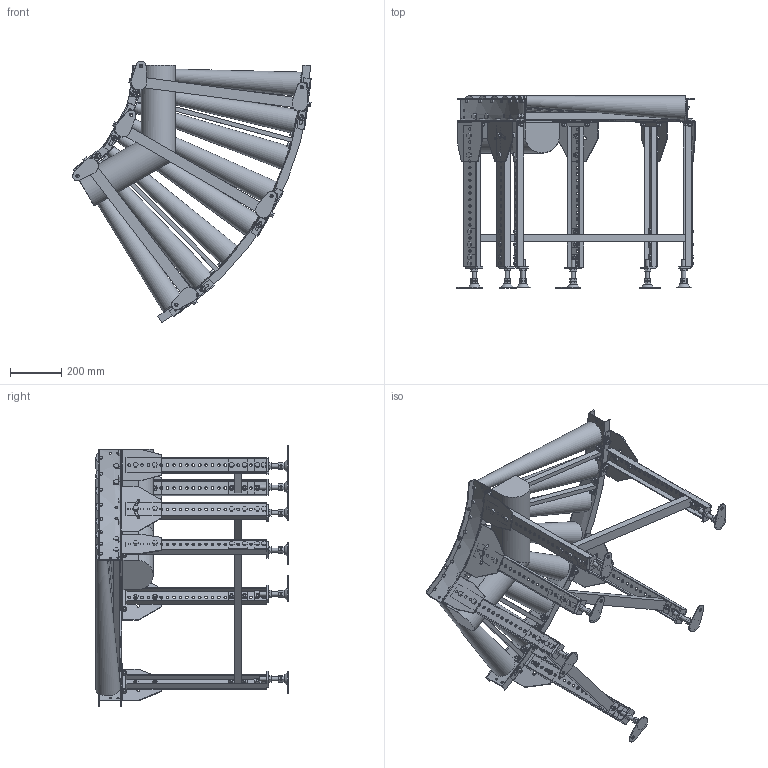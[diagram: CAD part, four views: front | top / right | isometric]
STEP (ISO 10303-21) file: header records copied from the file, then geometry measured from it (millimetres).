
FILE_DESCRIPTION( (''), '2;1');
FILE_NAME ('WEB-MCD-50-630-75-60°-C5.stp','2025-06-26T17:01:24',(''),(''),'spGate 20.6.2 (****-****-****-****)','','');
FILE_SCHEMA (('AUTOMOTIVE_DESIGN'));
Length unit declared in the file: millimetre
Products named in the file (45): WEB-MCD-50-630-75-60_-C5; TEMP_X_T-prt0; TEMP_X_T-prt1; TEMP_X_T-prt2; TEMP_X_T-prt3; TEMP_X_T-prt4; TEMP_X_T-prt5; TEMP_X_T-prt6; TEMP_X_T-prt7; TEMP_X_T-prt8; TEMP_X_T-prt9; TEMP_X_T-prt10; TEMP_X_T-prt11; TEMP_X_T-prt12; TEMP_X_T-prt13; TEMP_X_T-prt14; TEMP_X_T-prt15; TEMP_X_T-prt16; TEMP_X_T-prt17; TEMP_X_T-prt18; TEMP_X_T-prt19; TEMP_X_T-prt20; TEMP_X_T-prt21; TEMP_X_T-prt22; TEMP_X_T-prt23; TEMP_X_T-prt24; TEMP_X_T-prt25; TEMP_X_T-prt26; TEMP_X_T-prt27; TEMP_X_T-prt28; TEMP_X_T-prt29; TEMP_X_T-prt30; TEMP_X_T-prt31; TEMP_X_T-prt32; TEMP_X_T-prt33; TEMP_X_T-prt34; TEMP_X_T-prt35; TEMP_X_T-prt36; TEMP_X_T-prt37; TEMP_X_T-prt38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
Assembly tree (44 placements, depth 2):
  WEB-MCD-50-630-75-60_-C5
    TEMP_X_T-prt0
    TEMP_X_T-prt1
    TEMP_X_T-prt2
    TEMP_X_T-prt3
    TEMP_X_T-prt4
    TEMP_X_T-prt5
    TEMP_X_T-prt6
    TEMP_X_T-prt7
    TEMP_X_T-prt8
    TEMP_X_T-prt9
    TEMP_X_T-prt10
    TEMP_X_T-prt11
    TEMP_X_T-prt12
    TEMP_X_T-prt13
    TEMP_X_T-prt14
    TEMP_X_T-prt15
    TEMP_X_T-prt16
    TEMP_X_T-prt17
    TEMP_X_T-prt18
    TEMP_X_T-prt19
    TEMP_X_T-prt20
    TEMP_X_T-prt21
    TEMP_X_T-prt22
    TEMP_X_T-prt23
    TEMP_X_T-prt24
    TEMP_X_T-prt25
    TEMP_X_T-prt26
    TEMP_X_T-prt27
    TEMP_X_T-prt28
    TEMP_X_T-prt29
    TEMP_X_T-prt30
    TEMP_X_T-prt31
    TEMP_X_T-prt32
    TEMP_X_T-prt33
    TEMP_X_T-prt34
    TEMP_X_T-prt35
    TEMP_X_T-prt36
    TEMP_X_T-prt37
    TEMP_X_T-prt38
    TEMP_X_T-prt39
    TEMP_X_T-prt40
    TEMP_X_T-prt41
    TEMP_X_T-prt42
    TEMP_X_T-prt43
Bounding box: 930.58 x 749.97 x 1021.35 mm (x, y, z)
Volume: 35016093.1 mm3; surface area: 3694645.5 mm2
Topology: 44 solids, 76 shells, 2754 faces, 6717 edges, 4320 vertices
Faces by surface type: plane 2324, cylinder 416, bspline 14
Full cylindrical faces by diameter (mm): 8.5 x8, 10 x72, 10.5 x138, 11 x6, 12 x16, 13 x6, 14 x6, 16 x6, 18.4 x48, 18.5 x12, 21 x24
Entity records: 139683 total; most frequent: CARTESIAN_POINT 17047, DIRECTION 13972, ORIENTED_EDGE 13434, COLOUR_RGB 9515, PRESENTATION_STYLE_ASSIGNMENT 9515, STYLED_ITEM 9515, EDGE_CURVE 6717, DRAUGHTING_PRE_DEFINED_CURVE_FONT 6717
